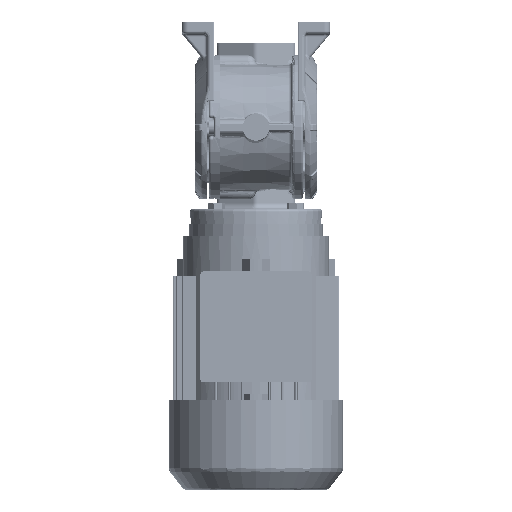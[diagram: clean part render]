
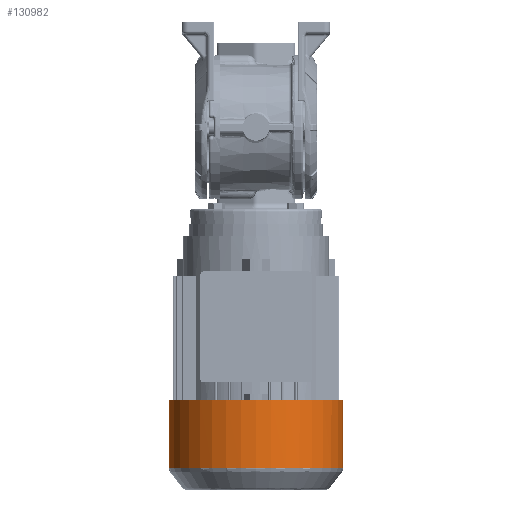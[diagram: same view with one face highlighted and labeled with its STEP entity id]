
A CAD part, front view. The second image highlights one B-rep face of the part: STEP entity #130982.
In plain terms, the highlighted cylindrical face has radius 58.8 mm (diameter 117.6 mm), a partial arc.
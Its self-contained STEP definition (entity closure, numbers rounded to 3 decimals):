
#974 = CARTESIAN_POINT ( 'NONE',  ( 58.8, 0., -89.5 ) ) ;
#976 = CARTESIAN_POINT ( 'NONE',  ( -58.8, 0., -89.5 ) ) ;
#979 = DIRECTION ( 'NONE',  ( -1., 0., 0. ) ) ;
#981 = DIRECTION ( 'NONE',  ( 0., 0., -1. ) ) ;
#983 = AXIS2_PLACEMENT_3D ( 'NONE', #999, #981, #979 ) ;
#985 = CIRCLE ( 'NONE', #983, 58.8 ) ;
#990 = DIRECTION ( 'NONE',  ( -1., 0., 0. ) ) ;
#992 = DIRECTION ( 'NONE',  ( 0., 0., -1. ) ) ;
#994 = CARTESIAN_POINT ( 'NONE',  ( 0., 0., -86.45 ) ) ;
#996 = AXIS2_PLACEMENT_3D ( 'NONE', #994, #992, #990 ) ;
#997 = CYLINDRICAL_SURFACE ( 'NONE', #996, 58.8 ) ;
#999 = CARTESIAN_POINT ( 'NONE',  ( 0., 0., -89.5 ) ) ;
#1004 = FACE_OUTER_BOUND ( 'NONE', #130983, .T. ) ;
#1209 = LINE ( 'NONE', #1368, #1366 ) ;
#1337 = DIRECTION ( 'NONE',  ( 0., 0., -1. ) ) ;
#1339 = VECTOR ( 'NONE', #1337, 1000. ) ;
#1341 = CARTESIAN_POINT ( 'NONE',  ( -58.8, 0., -86.45 ) ) ;
#1343 = LINE ( 'NONE', #1341, #1339 ) ;
#1349 = DIRECTION ( 'NONE',  ( -1., 0., 0. ) ) ;
#1351 = DIRECTION ( 'NONE',  ( 0., 0., 1. ) ) ;
#1352 = CARTESIAN_POINT ( 'NONE',  ( 0., 0., -135.595 ) ) ;
#1354 = AXIS2_PLACEMENT_3D ( 'NONE', #1352, #1351, #1349 ) ;
#1356 = CIRCLE ( 'NONE', #1354, 58.8 ) ;
#1362 = CARTESIAN_POINT ( 'NONE',  ( 58.8, 0., -135.595 ) ) ;
#1365 = DIRECTION ( 'NONE',  ( 0., 0., -1. ) ) ;
#1366 = VECTOR ( 'NONE', #1365, 1000. ) ;
#1368 = CARTESIAN_POINT ( 'NONE',  ( 58.8, 0., -86.45 ) ) ;
#130654 = VERTEX_POINT ( 'NONE', #300434 ) ;
#130656 = EDGE_CURVE ( 'NONE', #130657, #130654, #300430, .T. ) ;
#130657 = VERTEX_POINT ( 'NONE', #300421 ) ;
#130982 = ADVANCED_FACE ( 'NONE', ( #1004 ), #997, .T. ) ;
#130983 = EDGE_LOOP ( 'NONE', ( #130986, #131083, #131090, #131094, #131095 ) ) ;
#130986 = ORIENTED_EDGE ( 'NONE', *, *, #130987, .T. ) ;
#130987 = EDGE_CURVE ( 'NONE', #130988, #130989, #985, .T. ) ;
#130988 = VERTEX_POINT ( 'NONE', #976 ) ;
#130989 = VERTEX_POINT ( 'NONE', #974 ) ;
#131083 = ORIENTED_EDGE ( 'NONE', *, *, #131085, .T. ) ;
#131085 = EDGE_CURVE ( 'NONE', #130989, #131088, #1209, .T. ) ;
#131088 = VERTEX_POINT ( 'NONE', #1362 ) ;
#131090 = ORIENTED_EDGE ( 'NONE', *, *, #131092, .T. ) ;
#131092 = EDGE_CURVE ( 'NONE', #131088, #130657, #1356, .T. ) ;
#131094 = ORIENTED_EDGE ( 'NONE', *, *, #130656, .T. ) ;
#131095 = ORIENTED_EDGE ( 'NONE', *, *, #131096, .F. ) ;
#131096 = EDGE_CURVE ( 'NONE', #130988, #130654, #1343, .T. ) ;
#300421 = CARTESIAN_POINT ( 'NONE',  ( -58.799, 0.262, -135.595 ) ) ;
#300423 = DIRECTION ( 'NONE',  ( -1., 0., 0. ) ) ;
#300425 = DIRECTION ( 'NONE',  ( 0., 0., 1. ) ) ;
#300426 = CARTESIAN_POINT ( 'NONE',  ( 0., 0., -135.595 ) ) ;
#300428 = AXIS2_PLACEMENT_3D ( 'NONE', #300426, #300425, #300423 ) ;
#300430 = CIRCLE ( 'NONE', #300428, 58.8 ) ;
#300434 = CARTESIAN_POINT ( 'NONE',  ( -58.8, 0., -135.595 ) ) ;
